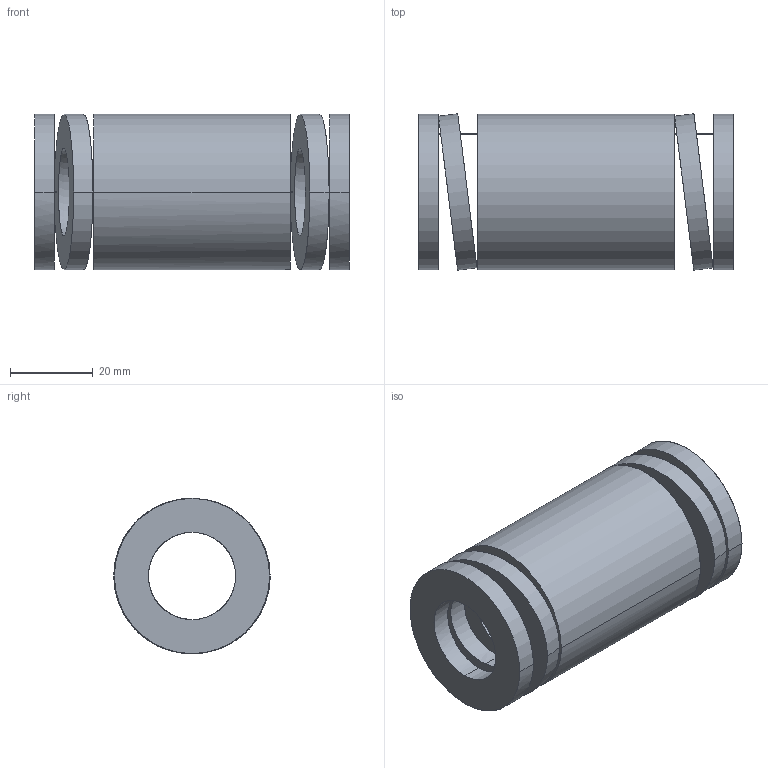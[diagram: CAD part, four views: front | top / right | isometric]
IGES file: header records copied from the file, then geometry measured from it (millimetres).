
Start section: START RECORD GO HERE.
Global section: file name: 392-B40-076.igs; native system: DASSAULT SYSTEMES CATIA V5 R20 - www.3ds.com; preprocessor: CATIA Version 5 Release 20 ; author: Utente; organization: NB04-ASUS; date: 20210813.131939; units: millimetre
Bounding box: 76 x 37.79 x 37.5 mm (x, y, z)
Surface area: 19766.6 mm2 (no closed solid volume)
Topology: 0 solids, 0 shells, 38 faces, 184 edges, 184 vertices
Faces by surface type: revolution 28, plane 10
